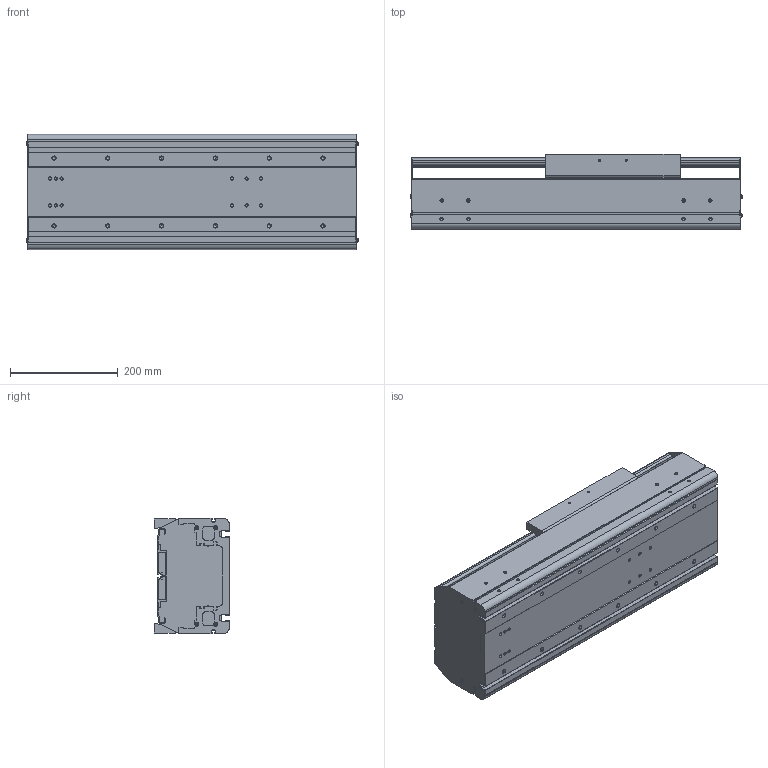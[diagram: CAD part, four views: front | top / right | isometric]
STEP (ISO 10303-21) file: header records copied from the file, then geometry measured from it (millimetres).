
FILE_DESCRIPTION((''),'2;1');
FILE_NAME('BE60G-ST-M_N-20_IGS_PRT','2017-06-18T',(' '),(''),'PRO/ENGINEER BY PARAMETRIC TECHNOLOGY CORPORATION, 2015030','PRO/ENGINEER BY PARAMETRIC TECHNOLOGY CORPORATION, 2015030','');
FILE_SCHEMA(('CONFIG_CONTROL_DESIGN'));
Length unit declared in the file: millimetre
Products named in the file (1): BE60G-ST-M_N-20_IGS_PRT
Bounding box: 617.4 x 140 x 214 mm (x, y, z)
Volume: 5573638.6 mm3; surface area: 1475931 mm2
Topology: 2 solids, 100 shells, 1326 faces, 3646 edges, 2386 vertices
Faces by surface type: cylinder 632, plane 570, cone 76, sphere 24, torus 24
Entity records: 43519 total; most frequent: CARTESIAN_POINT 9275, DIRECTION 7276, ORIENTED_EDGE 6764, EDGE_CURVE 3574, AXIS2_PLACEMENT_3D 2663, VERTEX_POINT 2386, VECTOR 1950, LINE 1950
